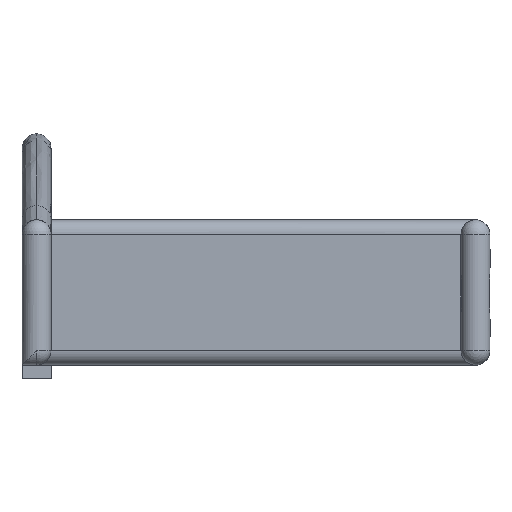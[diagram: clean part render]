
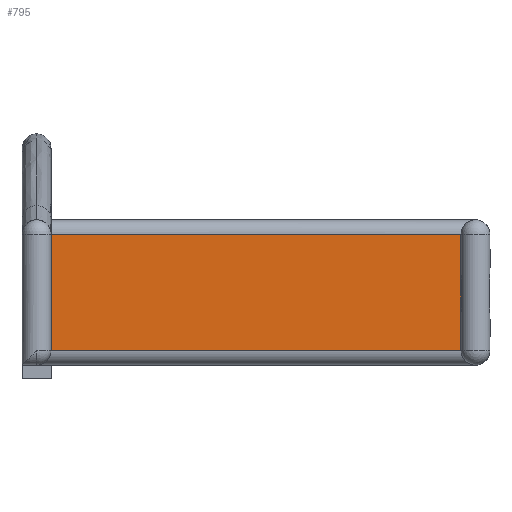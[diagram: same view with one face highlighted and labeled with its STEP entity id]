
A CAD part, front view. The second image highlights one B-rep face of the part: STEP entity #795.
In plain terms, the highlighted planar face has unit normal (0, -1, 0).
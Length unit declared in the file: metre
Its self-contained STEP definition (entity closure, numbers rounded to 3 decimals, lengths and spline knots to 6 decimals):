
#141=ORIENTED_EDGE('',*,*,#340,.F.);
#142=ORIENTED_EDGE('',*,*,#378,.T.);
#143=ORIENTED_EDGE('',*,*,#375,.T.);
#144=ORIENTED_EDGE('',*,*,#379,.T.);
#145=ORIENTED_EDGE('',*,*,#355,.F.);
#146=ORIENTED_EDGE('',*,*,#380,.F.);
#340=EDGE_CURVE('',#459,#460,#529,.T.);
#355=EDGE_CURVE('',#474,#469,#538,.T.);
#375=EDGE_CURVE('',#494,#493,#554,.T.);
#378=EDGE_CURVE('',#459,#494,#556,.T.);
#379=EDGE_CURVE('',#493,#469,#557,.F.);
#380=EDGE_CURVE('',#460,#474,#558,.F.);
#459=VERTEX_POINT('',#1187);
#460=VERTEX_POINT('',#1189);
#469=VERTEX_POINT('',#1210);
#474=VERTEX_POINT('',#1219);
#493=VERTEX_POINT('',#1268);
#494=VERTEX_POINT('',#1270);
#529=LINE('',#1188,#595);
#538=LINE('',#1220,#604);
#554=LINE('',#1269,#620);
#556=LINE('',#1274,#622);
#557=LINE('',#1275,#623);
#558=LINE('',#1276,#624);
#595=VECTOR('',#948,1.);
#604=VECTOR('',#973,1.);
#620=VECTOR('',#1001,1.);
#622=VECTOR('',#1007,1.);
#623=VECTOR('',#1008,1.);
#624=VECTOR('',#1009,1.);
#663=EDGE_LOOP('',(#141,#142,#143,#144,#145,#146));
#719=FACE_BOUND('',#663,.T.);
#775=PLANE('',#868);
#795=ADVANCED_FACE('',(#719),#775,.T.);
#868=AXIS2_PLACEMENT_3D('',#1273,#1005,#1006);
#948=DIRECTION('',(0.,0.,-1.));
#973=DIRECTION('',(0.,0.,-1.));
#1001=DIRECTION('',(0.,0.,-1.));
#1005=DIRECTION('',(0.,-1.,0.));
#1006=DIRECTION('',(1.,0.,0.));
#1007=DIRECTION('',(-1.,0.,0.));
#1008=DIRECTION('',(-1.,0.,0.));
#1009=DIRECTION('',(0.,0.,1.));
#1187=CARTESIAN_POINT('',(0.028199,0.016963,0.009));
#1188=CARTESIAN_POINT('',(0.028199,0.016963,0.01));
#1189=CARTESIAN_POINT('',(0.028199,0.016963,0.007033));
#1210=CARTESIAN_POINT('',(0.028199,0.016963,0.001));
#1219=CARTESIAN_POINT('',(0.028199,0.016963,0.002829));
#1220=CARTESIAN_POINT('',(0.028199,0.016963,0.01));
#1268=CARTESIAN_POINT('',(-0.000001,0.016963,0.001));
#1269=CARTESIAN_POINT('',(-0.000001,0.016963,0.01));
#1270=CARTESIAN_POINT('',(-0.000001,0.016963,0.009));
#1273=CARTESIAN_POINT('',(0.014099,0.016963,0.01));
#1274=CARTESIAN_POINT('',(0.014099,0.016963,0.009));
#1275=CARTESIAN_POINT('',(0.028199,0.016963,0.001));
#1276=CARTESIAN_POINT('',(0.0282,0.016963,0.004931));
